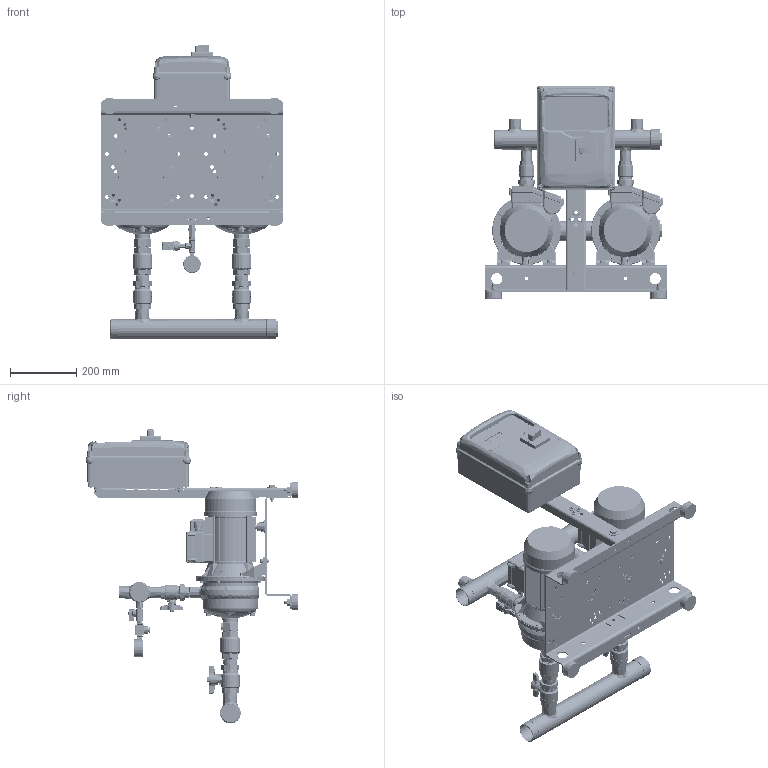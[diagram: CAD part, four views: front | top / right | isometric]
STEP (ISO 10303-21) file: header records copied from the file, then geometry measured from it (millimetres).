
FILE_DESCRIPTION((''),'2;1');
FILE_NAME('2GP_2CDX_120-20M_REV5_ASM','2025-02-04T18:30:02',('Utente'),('"Ebara Pumps Europe S.p.A"'),'CREO PARAMETRIC BY PTC INC, 2022124','CREO PARAMETRIC BY PTC INC, 2022124','');
FILE_SCHEMA(('AUTOMOTIVE_DESIGN { 1 0 10303 214 1 1 1 1 }'));
Products named in the file (44): 62508_275562936; CALOTTA_F_A304_DN50_369800820; VAL_INT_MF-B_OTN_CIM346_DN32; VAL_INT_M-F-3_OTN_CIM346_DN32_ASM; VAL-NR-FF-OTN-CIM30-DN32; VAL_NR_F-F_OTN_CIM30_DN32_ASM; NIPPLO-ALIM_OT_DN32_361910051; TAPPO_M_OT_1-2_380000878; MEC_80_PACCO110_120_MONOFASE_2; COPRIMORSETTIERA_MEC80_90_M_11; 80546_17; 251420694_139; 72011_6; 2CDXM_120_20_ASM; EP_2CDXM_120-20_ASM; VAL_INT_MF-B_OTN_CIM346_DN25; VAL_INT_M-F-3_OTN_CIM346_DN25_ASM; RONDEL-P_FE_ZN_UNI6592_M8; DADO_AUTOAGG_M8_ESAG; VITI_TE_ISO4017_M8_L20; 62510_275562942; TAPPO-SALVAFIL_D31; VAL_INT_MF_OTN_CIM012_DN8; NIPPLO_OTG_8_380000861; RACC-T_OTG_DN8_380000880; MAN_RAD_D50_10BAR_361600160; BASE_2GP_I300-B300_DNRV; MONTANTE_H600_271472877; PIEDINO_CIL_369650010; RONDEL-P_FE_ZN_UNI6592_M10; DADI_NORM_ISO4032_FE_ZN_M10; RONDEL-P_ZN_UNI6593_M10X30X2-5; VITI_TE_ISO4017_M10_L45; TRAVERSO_MONT_L200_271472882; RONDEL-P_FE_ZN_UNI6593_M6X18X2; RONDEL-P_FE_ZN_UNI6592_M6; VITI_TE_ISO4017_M6_L20; DADI_NORM_ISO4032_FE_ZN_M6; DADO_AUTOAGG_M10_ESAG; DNRV_2P_I300-B300_H600-Q220X300_ASM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
Assembly tree (88 placements, depth 4):
  2GP_2CDX_120-20M_REV5_ASM
    62508_275562936
    CALOTTA_F_A304_DN50_369800820  x2
    VAL_INT_M-F-3_OTN_CIM346_DN32_ASM  x2
      VAL_INT_MF-B_OTN_CIM346_DN32
    VAL_NR_F-F_OTN_CIM30_DN32_ASM  x2
      VAL-NR-FF-OTN-CIM30-DN32
    NIPPLO-ALIM_OT_DN32_361910051  x2
    TAPPO_M_OT_1-2_380000878  x2
    EP_2CDXM_120-20_ASM  x2
      2CDXM_120_20_ASM
        MEC_80_PACCO110_120_MONOFASE_2
        COPRIMORSETTIERA_MEC80_90_M_11
        80546_17
        251420694_139
        72011_6
    VAL_INT_M-F-3_OTN_CIM346_DN25_ASM  x2
      VAL_INT_MF-B_OTN_CIM346_DN25
    RONDEL-P_FE_ZN_UNI6592_M8  x4
    DADO_AUTOAGG_M8_ESAG  x4
    VITI_TE_ISO4017_M8_L20  x4
    62510_275562942
    TAPPO-SALVAFIL_D31  x2
    VAL_INT_MF_OTN_CIM012_DN8
    NIPPLO_OTG_8_380000861
    RACC-T_OTG_DN8_380000880
    MAN_RAD_D50_10BAR_361600160
    DNRV_2P_I300-B300_H600-Q220X300_ASM
      BASE_2GP_I300-B300_DNRV
      MONTANTE_H600_271472877
      PIEDINO_CIL_369650010  x4
      RONDEL-P_FE_ZN_UNI6592_M10  x4
      DADI_NORM_ISO4032_FE_ZN_M10  x4
      RONDEL-P_ZN_UNI6593_M10X30X2-5
      VITI_TE_ISO4017_M10_L45
      TRAVERSO_MONT_L200_271472882  x2
      RONDEL-P_FE_ZN_UNI6593_M6X18X2  x8
      RONDEL-P_FE_ZN_UNI6592_M6  x4
      VITI_TE_ISO4017_M6_L20  x4
      DADI_NORM_ISO4032_FE_ZN_M6  x4
      DADO_AUTOAGG_M10_ESAG
    COM_EP-PRO_2M_362334214
    PG_PVC_D10-5_380000891  x3
    TRASD_16BAR_460500024
Bounding box: 550 x 644.45 x 893.45 mm (x, y, z)
Volume: 13358419.7 mm3; surface area: 3654482.7 mm2
Topology: 1359 solids, 1490 shells, 21600 faces, 54871 edges, 36476 vertices
Faces by surface type: plane 14132, cylinder 3481, cone 1332, bspline 953, extrusion 943, torus 666, sphere 91, revolution 2
Entity records: 965124 total; most frequent: CARTESIAN_POINT 299269, ORIENTED_EDGE 80877, DIRECTION 75788, PRESENTATION_STYLE_ASSIGNMENT 54341, STYLED_ITEM 44872, EDGE_CURVE 41390, CURVE_STYLE 40621, VECTOR 30291
